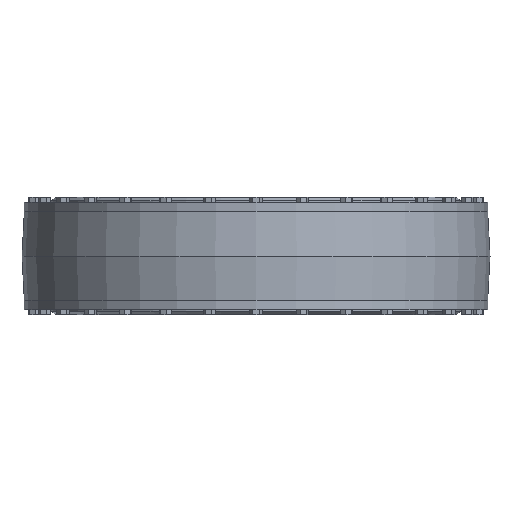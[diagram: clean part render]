
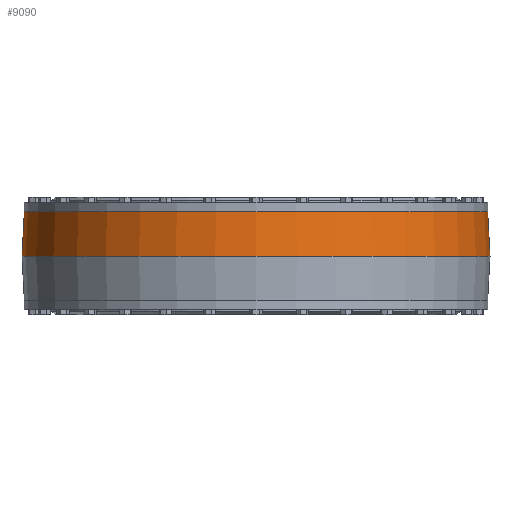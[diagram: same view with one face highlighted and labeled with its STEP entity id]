
A CAD part, front view. The second image highlights one B-rep face of the part: STEP entity #9090.
In plain terms, the highlighted conical face has half-angle 3 degrees and reference radius 402.06 mm.
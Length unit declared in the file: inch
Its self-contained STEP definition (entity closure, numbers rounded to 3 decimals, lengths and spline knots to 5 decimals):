
#66=CONICAL_SURFACE('',#9643,15.82914,0.052);
#216=CIRCLE('',#9641,15.75);
#217=CIRCLE('',#9642,15.75);
#218=CIRCLE('',#9644,15.90827);
#219=CIRCLE('',#9645,15.90827);
#674=FACE_OUTER_BOUND('',#1205,.T.);
#1205=EDGE_LOOP('',(#7725,#7726,#7727,#7728,#7729,#7730));
#2306=LINE('',#14288,#3407);
#3407=VECTOR('',#11827,15.82914);
#4202=VERTEX_POINT('',#14278);
#4203=VERTEX_POINT('',#14279);
#4204=VERTEX_POINT('',#14284);
#4205=VERTEX_POINT('',#14285);
#5377=EDGE_CURVE('',#4202,#4203,#216,.T.);
#5378=EDGE_CURVE('',#4203,#4202,#217,.T.);
#5380=EDGE_CURVE('',#4204,#4205,#218,.T.);
#5381=EDGE_CURVE('',#4205,#4204,#219,.T.);
#5382=EDGE_CURVE('',#4205,#4203,#2306,.T.);
#7725=ORIENTED_EDGE('',*,*,#5380,.F.);
#7726=ORIENTED_EDGE('',*,*,#5381,.F.);
#7727=ORIENTED_EDGE('',*,*,#5382,.T.);
#7728=ORIENTED_EDGE('',*,*,#5378,.T.);
#7729=ORIENTED_EDGE('',*,*,#5377,.T.);
#7730=ORIENTED_EDGE('',*,*,#5382,.F.);
#9090=ADVANCED_FACE('',(#674),#66,.T.);
#9641=AXIS2_PLACEMENT_3D('',#14280,#11816,#11817);
#9642=AXIS2_PLACEMENT_3D('',#14281,#11818,#11819);
#9643=AXIS2_PLACEMENT_3D('',#14283,#11821,#11822);
#9644=AXIS2_PLACEMENT_3D('',#14286,#11823,#11824);
#9645=AXIS2_PLACEMENT_3D('',#14287,#11825,#11826);
#11816=DIRECTION('center_axis',(0.,0.,-1.));
#11817=DIRECTION('ref_axis',(1.,0.,0.));
#11818=DIRECTION('center_axis',(0.,0.,-1.));
#11819=DIRECTION('ref_axis',(1.,0.,0.));
#11821=DIRECTION('center_axis',(0.,0.,-1.));
#11822=DIRECTION('ref_axis',(0.,1.,0.));
#11823=DIRECTION('center_axis',(0.,0.,-1.));
#11824=DIRECTION('ref_axis',(1.,0.,0.));
#11825=DIRECTION('center_axis',(0.,0.,-1.));
#11826=DIRECTION('ref_axis',(1.,0.,0.));
#11827=DIRECTION('',(0.,0.052,0.999));
#14278=CARTESIAN_POINT('',(0.,15.75,3.02));
#14279=CARTESIAN_POINT('',(0.,-15.75,3.02));
#14280=CARTESIAN_POINT('Origin',(0.,0.,3.02));
#14281=CARTESIAN_POINT('Origin',(0.,0.,3.02));
#14283=CARTESIAN_POINT('Origin',(0.,0.,1.51));
#14284=CARTESIAN_POINT('',(0.,15.90827,0.));
#14285=CARTESIAN_POINT('',(0.,-15.90827,0.));
#14286=CARTESIAN_POINT('Origin',(0.,0.,0.));
#14287=CARTESIAN_POINT('Origin',(0.,0.,0.));
#14288=CARTESIAN_POINT('',(0.,-15.82914,1.51));
